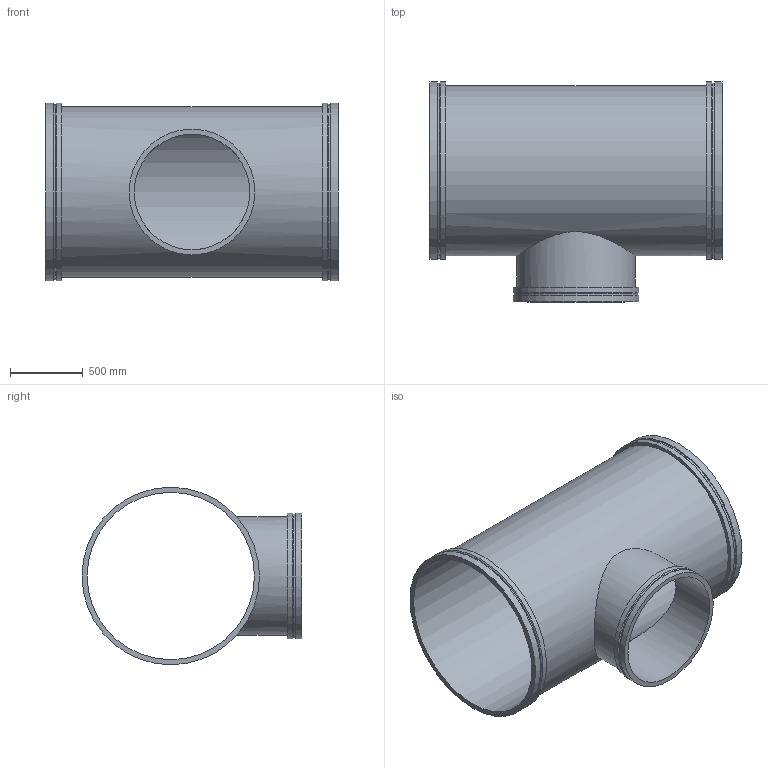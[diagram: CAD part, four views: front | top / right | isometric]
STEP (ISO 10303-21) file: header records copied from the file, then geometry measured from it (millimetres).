
FILE_DESCRIPTION(/* description */ ('VIC REDUCING TEE No W025 VR','CAx-IF Rec.Pracs.---Representation and Presentation of Product Manufacturing Information (PMI)---4.0---2014-10-13'),/* implementation_level */ '2;1');
FILE_NAME(/* name */ 'C:\Users\kkamble\AppData\Roaming\Autodesk\ApplicationPlugins\Back Up\Victaulic_Vic-Ring_Tee Reducing_No W25 VR (AGR)\Victaulic_Vic-Ring_Tee Reducing_No W25 VR (AGR)_46.0x32.0 (1150x800).stp',/* time_stamp */ '2020-09-10T11:56:44+05:00',/* author */ ('mchristi'),/* organization */ ('Victaulic'),/* preprocessor_version */ 'ST-DEVELOPER v17.2',/* originating_system */ 'Autodesk Inventor 2019',/* authorisation */ '');
FILE_SCHEMA (('AP242_MANAGED_MODEL_BASED_3D_ENGINEERING_MIM_LF { 1 0 10303 442 1 1 4 }'));
Length unit declared in the file: inch
Products named in the file (1): W25 VR-46.0x32.0
Bounding box: 2006.6 x 1511.3 x 1219.2 mm (x, y, z)
Volume: 100056610.2 mm3; surface area: 16313032 mm2
Topology: 1 solids, 1 shells, 25 faces, 68 edges, 52 vertices
Faces by surface type: cylinder 13, plane 9, cone 3
Full cylindrical faces by diameter (mm): 793.75 x1, 812.8 x1, 849.122 x1, 863.6 x2, 1149.35 x1, 1168.4 x1, 1203.325 x2, 1219.2 x4
Entity records: 1267 total; most frequent: CARTESIAN_POINT 423, DIRECTION 190, ORIENTED_EDGE 136, AXIS2_PLACEMENT_3D 87, EDGE_CURVE 68, VERTEX_POINT 52, CIRCLE 48, EDGE_LOOP 36
